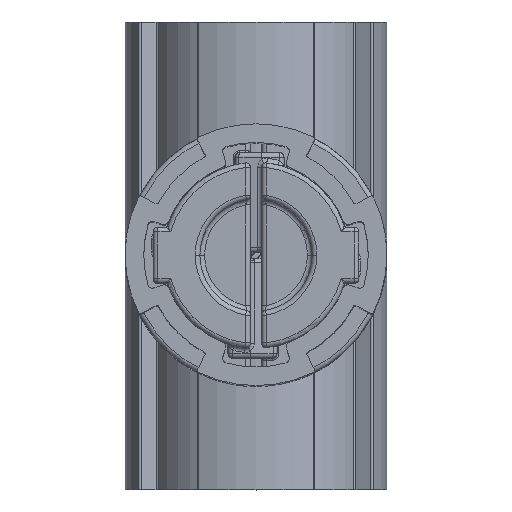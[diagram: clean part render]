
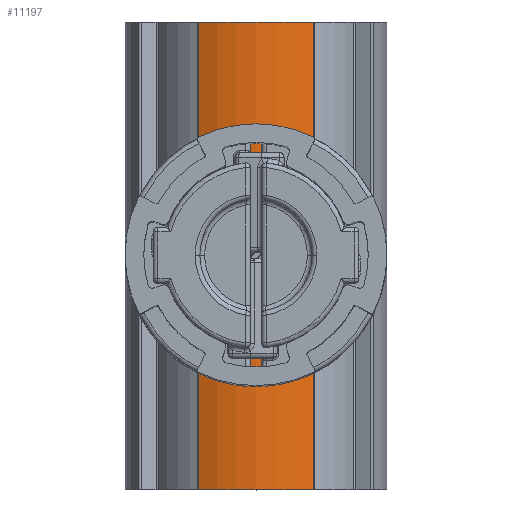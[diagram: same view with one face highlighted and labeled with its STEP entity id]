
A CAD part, top view. The second image highlights one B-rep face of the part: STEP entity #11197.
In plain terms, the highlighted cylindrical face has radius 14 mm (diameter 28 mm), a partial arc.
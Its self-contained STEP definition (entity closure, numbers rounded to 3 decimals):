
#796 = DIRECTION ( 'NONE',  ( 1., 0., 0. ) ) ;
#969 = EDGE_LOOP ( 'NONE', ( #8344, #9601, #6554, #9199 ) ) ;
#1788 = VERTEX_POINT ( 'NONE', #3907 ) ;
#2480 = DIRECTION ( 'NONE',  ( 0., 0., 1. ) ) ;
#3523 = CARTESIAN_POINT ( 'NONE',  ( -6.174, 12.565, 0. ) ) ;
#3907 = CARTESIAN_POINT ( 'NONE',  ( -6.174, 12.565, -50. ) ) ;
#3997 = VERTEX_POINT ( 'NONE', #10816 ) ;
#4027 = AXIS2_PLACEMENT_3D ( 'NONE', #11728, #9769, #796 ) ;
#4283 = VERTEX_POINT ( 'NONE', #8998 ) ;
#4337 = DIRECTION ( 'NONE',  ( 1., 0., 0. ) ) ;
#4501 = CIRCLE ( 'NONE', #6182, 14. ) ;
#4575 = EDGE_CURVE ( 'NONE', #1788, #4283, #9061, .T. ) ;
#5379 = EDGE_CURVE ( 'NONE', #4283, #3997, #11317, .T. ) ;
#5756 = CARTESIAN_POINT ( 'NONE',  ( -6.174, 12.565, -100. ) ) ;
#5905 = VERTEX_POINT ( 'NONE', #3523 ) ;
#6182 = AXIS2_PLACEMENT_3D ( 'NONE', #6663, #12445, #6411 ) ;
#6313 = CARTESIAN_POINT ( 'NONE',  ( 0., 0., -100. ) ) ;
#6378 = DIRECTION ( 'NONE',  ( 0., 0., 1. ) ) ;
#6411 = DIRECTION ( 'NONE',  ( 1., 0., 0. ) ) ;
#6554 = ORIENTED_EDGE ( 'NONE', *, *, #10565, .F. ) ;
#6663 = CARTESIAN_POINT ( 'NONE',  ( 0., 0., 0. ) ) ;
#7350 = FACE_OUTER_BOUND ( 'NONE', #969, .T. ) ;
#7452 = LINE ( 'NONE', #5756, #7976 ) ;
#7976 = VECTOR ( 'NONE', #2480, 1000. ) ;
#8344 = ORIENTED_EDGE ( 'NONE', *, *, #4575, .F. ) ;
#8998 = CARTESIAN_POINT ( 'NONE',  ( 6.174, 12.565, -50. ) ) ;
#9024 = CARTESIAN_POINT ( 'NONE',  ( 6.174, 12.565, -100. ) ) ;
#9061 = CIRCLE ( 'NONE', #4027, 14. ) ;
#9199 = ORIENTED_EDGE ( 'NONE', *, *, #5379, .F. ) ;
#9601 = ORIENTED_EDGE ( 'NONE', *, *, #11957, .T. ) ;
#9769 = DIRECTION ( 'NONE',  ( 0., 0., -1. ) ) ;
#10565 = EDGE_CURVE ( 'NONE', #3997, #5905, #4501, .T. ) ;
#10816 = CARTESIAN_POINT ( 'NONE',  ( 6.174, 12.565, 0. ) ) ;
#11059 = DIRECTION ( 'NONE',  ( 0., 0., 1. ) ) ;
#11197 = ADVANCED_FACE ( 'NONE', ( #7350 ), #11361, .T. ) ;
#11317 = LINE ( 'NONE', #9024, #12009 ) ;
#11361 = CYLINDRICAL_SURFACE ( 'NONE', #12039, 14. ) ;
#11728 = CARTESIAN_POINT ( 'NONE',  ( 0., 0., -50. ) ) ;
#11957 = EDGE_CURVE ( 'NONE', #1788, #5905, #7452, .T. ) ;
#12009 = VECTOR ( 'NONE', #11059, 1000. ) ;
#12039 = AXIS2_PLACEMENT_3D ( 'NONE', #6313, #6378, #4337 ) ;
#12445 = DIRECTION ( 'NONE',  ( 0., 0., 1. ) ) ;
